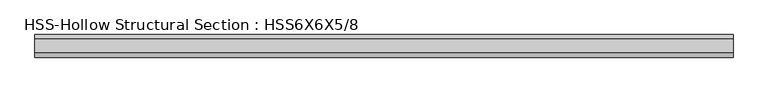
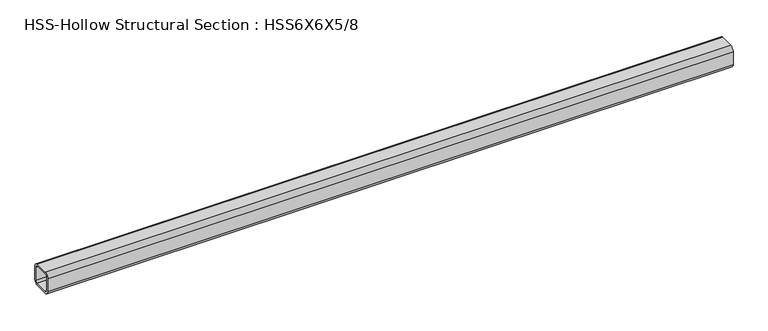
"""IFC4 building model written with IfcOpenShell, lengths in millimetres: beam geometry, HSS-Hollow Structural Section : HSS6X6X5/8."""

from ifc_helpers import new_model, si_unit, point, frame, frame_2d, origin, place, context, project, spatial, polyline, circle_curve, trimmed, segment, composite_curve, outline, extrude, source, transform, mapped, element, save


def hss_hollow_structural_section_hss6x6x5_8_545deb69(model_context):
    return source(origin(), model_context, "Body", "SweptSolid", [
        extrude(outline(composite_curve([segment(trimmed(circle_curve(frame_2d((-46.6852, 46.6852)), 29.5148), [point((-76.2, 46.6852))], [point((-46.6852, 76.2))], False, "CARTESIAN"), True, "CONTINUOUS"), segment(polyline([(-46.6852, 76.2), (46.6852, 76.2)]), True, "CONTINUOUS"), segment(trimmed(circle_curve(frame_2d((46.6852, 46.6852)), 29.5148), [point((46.6852, 76.2))], [point((76.2, 46.6852))], False, "CARTESIAN"), True, "CONTINUOUS"), segment(polyline([(76.2, 46.6852), (76.2, -46.6852)]), True, "CONTINUOUS"), segment(trimmed(circle_curve(frame_2d((46.6852, -46.6852)), 29.5148), [point((76.2, -46.6852))], [point((46.6852, -76.2))], False, "CARTESIAN"), True, "CONTINUOUS"), segment(polyline([(46.6852, -76.2), (-46.6852, -76.2)]), True, "CONTINUOUS"), segment(trimmed(circle_curve(frame_2d((-46.6852, -46.6852)), 29.5148), [point((-46.6852, -76.2))], [point((-76.2, -46.6852))], False, "CARTESIAN"), True, "CONTINUOUS"), segment(polyline([(-76.2, -46.6852), (-76.2, 46.6852)]), True, "CONTINUOUS")], self_intersect=False), holes=[composite_curve([segment(polyline([(46.6852, 61.4426), (-46.6852, 61.4426)]), True, "CONTINUOUS"), segment(trimmed(circle_curve(frame_2d((-46.6852, 46.6852)), 14.7574), [point((-46.6852, 61.4426))], [point((-61.4426, 46.6852))], True, "CARTESIAN"), True, "CONTINUOUS"), segment(polyline([(-61.4426, 46.6852), (-61.4426, -46.6852)]), True, "CONTINUOUS"), segment(trimmed(circle_curve(frame_2d((-46.6852, -46.6852)), 14.7574), [point((-61.4426, -46.6852))], [point((-46.6852, -61.4426))], True, "CARTESIAN"), True, "CONTINUOUS"), segment(polyline([(-46.6852, -61.4426), (46.6852, -61.4426)]), True, "CONTINUOUS"), segment(trimmed(circle_curve(frame_2d((46.6852, -46.6852)), 14.7574), [point((46.6852, -61.4426))], [point((61.4426, -46.6852))], True, "CARTESIAN"), True, "CONTINUOUS"), segment(polyline([(61.4426, -46.6852), (61.4426, 46.6852)]), True, "CONTINUOUS"), segment(trimmed(circle_curve(frame_2d((46.6852, 46.6852)), 14.7574), [point((61.4426, 46.6852))], [point((46.6852, 61.4426))], True, "CARTESIAN"), True, "CONTINUOUS")], self_intersect=False)]), frame((-2349.5, 0.0, 0.0), z_axis=(1.0, 0.0, 0.0), x_axis=(0.0, 1.0, 0.0)), (0.0, 0.0, 1.0), 4699.0),
    ])


if __name__ == "__main__":
    model = new_model("IFC4")
    model_context = context("Model", 3, world=origin())
    ifc_project = project(units=[si_unit("LENGTHUNIT", "METRE", prefix="MILLI")], contexts=[model_context])
    site = spatial("IfcSite", under=ifc_project)
    building = spatial("IfcBuilding", under=site)
    placement = place(None, origin())
    hss_hollow_structural_section_hss6x6x5_8_shape = hss_hollow_structural_section_hss6x6x5_8_545deb69(model_context)
    element("IfcBeam", 1, ObjectType="HSS-Hollow Structural Section : HSS6X6X5/8", at=placement, inside=building, context=model_context, shape_type="MappedRepresentation", body=[
        mapped(hss_hollow_structural_section_hss6x6x5_8_shape, transform((0.0, 0.0, 0.0), x_axis=(1.0, 0.0, 0.0), y_axis=(0.0, 1.0, 0.0), z_axis=(0.0, 0.0, 1.0))),
    ])
    save(model, "model.ifc")
